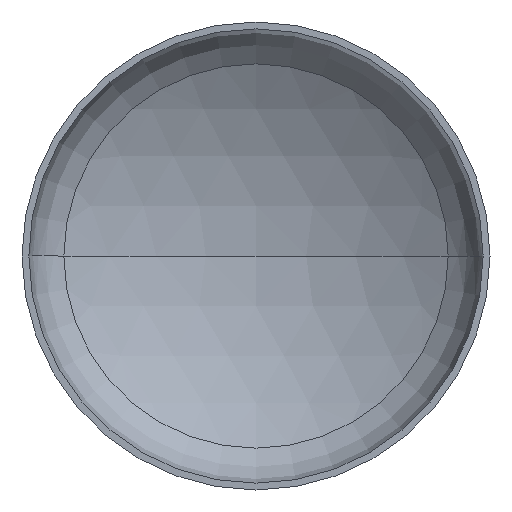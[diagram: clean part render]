
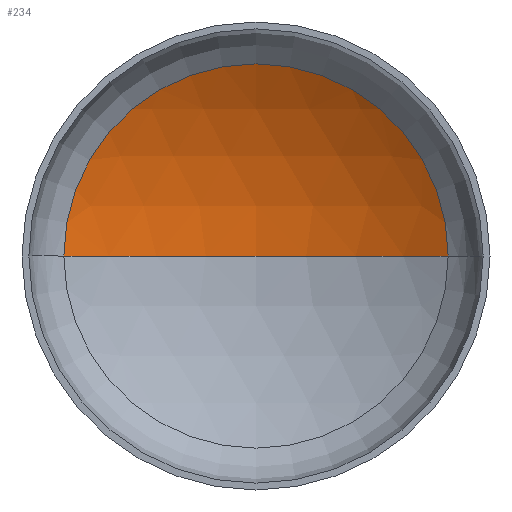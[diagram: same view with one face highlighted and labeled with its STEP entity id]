
A CAD part, front view. The second image highlights one B-rep face of the part: STEP entity #234.
In plain terms, the highlighted spherical face has radius 2240 mm.
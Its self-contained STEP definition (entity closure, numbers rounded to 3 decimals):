
#2 = ORIENTED_EDGE ( 'NONE', *, *, #375, .F. ) ;
#12 = EDGE_LOOP ( 'NONE', ( #2, #302, #126 ) ) ;
#15 = AXIS2_PLACEMENT_3D ( 'NONE', #125, #50, #41 ) ;
#26 = DIRECTION ( 'NONE',  ( 0., 0., -1. ) ) ;
#41 = DIRECTION ( 'NONE',  ( 1., 0., 0. ) ) ;
#46 = AXIS2_PLACEMENT_3D ( 'NONE', #237, #26, #48 ) ;
#47 = AXIS2_PLACEMENT_3D ( 'NONE', #399, #408, #407 ) ;
#48 = DIRECTION ( 'NONE',  ( -1., 0., 0. ) ) ;
#49 = AXIS2_PLACEMENT_3D ( 'NONE', #195, #59, #52 ) ;
#50 = DIRECTION ( 'NONE',  ( 0., 0., 1. ) ) ;
#52 = DIRECTION ( 'NONE',  ( 1., 0., 0. ) ) ;
#59 = DIRECTION ( 'NONE',  ( 0., -1., 0. ) ) ;
#70 = FACE_OUTER_BOUND ( 'NONE', #12, .T. ) ;
#109 = VERTEX_POINT ( 'NONE', #350 ) ;
#113 = VERTEX_POINT ( 'NONE', #333 ) ;
#125 = CARTESIAN_POINT ( 'NONE',  ( 0., -1423.402, 0. ) ) ;
#126 = ORIENTED_EDGE ( 'NONE', *, *, #231, .T. ) ;
#193 = VERTEX_POINT ( 'NONE', #204 ) ;
#195 = CARTESIAN_POINT ( 'NONE',  ( 0., 499.04, 0. ) ) ;
#200 = CIRCLE ( 'NONE', #49, 1149.702 ) ;
#204 = CARTESIAN_POINT ( 'NONE',  ( -1149.702, 499.04, 0. ) ) ;
#230 = CIRCLE ( 'NONE', #15, 2240. ) ;
#231 = EDGE_CURVE ( 'NONE', #109, #193, #200, .T. ) ;
#234 = ADVANCED_FACE ( 'NONE', ( #70 ), #321, .F. ) ;
#237 = CARTESIAN_POINT ( 'NONE',  ( 0., -1423.402, 0. ) ) ;
#240 = EDGE_CURVE ( 'NONE', #113, #109, #263, .T. ) ;
#263 = CIRCLE ( 'NONE', #47, 2240. ) ;
#302 = ORIENTED_EDGE ( 'NONE', *, *, #240, .T. ) ;
#321 = SPHERICAL_SURFACE ( 'NONE', #46, 2240. ) ;
#333 = CARTESIAN_POINT ( 'NONE',  ( 0., 816.598, 0. ) ) ;
#350 = CARTESIAN_POINT ( 'NONE',  ( 1149.702, 499.04, 0. ) ) ;
#375 = EDGE_CURVE ( 'NONE', #113, #193, #230, .T. ) ;
#399 = CARTESIAN_POINT ( 'NONE',  ( 0., -1423.402, 0. ) ) ;
#407 = DIRECTION ( 'NONE',  ( -1., 0., 0. ) ) ;
#408 = DIRECTION ( 'NONE',  ( 0., 0., -1. ) ) ;
